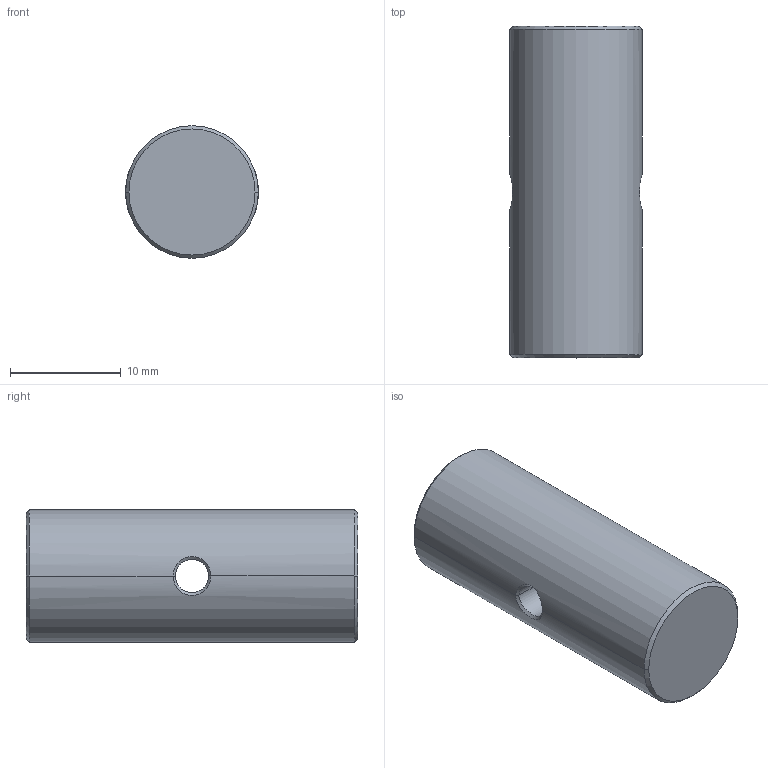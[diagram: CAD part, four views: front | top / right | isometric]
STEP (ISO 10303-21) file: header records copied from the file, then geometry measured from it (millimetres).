
FILE_DESCRIPTION((''),'2;1');
FILE_NAME('PCA30-M4','2020-12-11T',('Administrator'),(''),'CREO PARAMETRIC BY PTC INC, 2015290','CREO PARAMETRIC BY PTC INC, 2015290','');
FILE_SCHEMA(('CONFIG_CONTROL_DESIGN'));
Length unit declared in the file: millimetre
Products named in the file (1): PCA30-M4
Bounding box: 12 x 30 x 12 mm (x, y, z)
Volume: 3226.3 mm3; surface area: 1567.1 mm2
Topology: 1 solids, 1 shells, 47 faces, 123 edges, 75 vertices
Faces by surface type: cylinder 23, bspline 14, cone 8, plane 2
Entity records: 3565 total; most frequent: CARTESIAN_POINT 2539, ORIENTED_EDGE 242, DIRECTION 139, EDGE_CURVE 121, VERTEX_POINT 75, B_SPLINE_CURVE_WITH_KNOTS 62, EDGE_LOOP 48, AXIS2_PLACEMENT_3D 47
